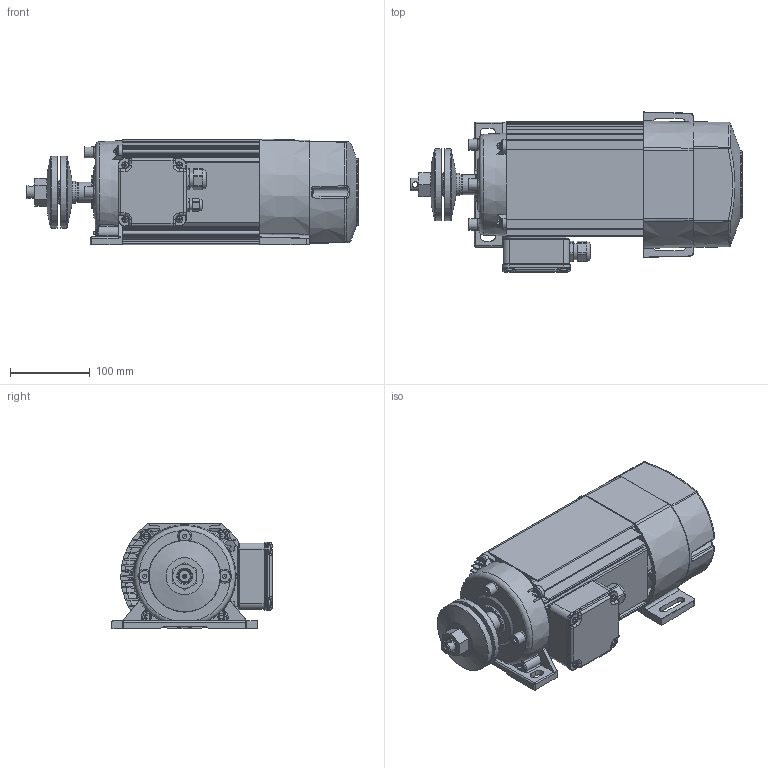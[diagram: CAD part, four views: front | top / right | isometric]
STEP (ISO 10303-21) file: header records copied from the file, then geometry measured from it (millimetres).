
FILE_DESCRIPTION((''),'2;1');
FILE_NAME('K:\EMG_Inv_Konstruktion\Flachbaumotoren\FB_80\DKF\T9155.stp','2013-08-09T07:36:10',('goldhahn'),(''),'Autodesk Inventor 2010','Autodesk Inventor 2010','');
FILE_SCHEMA(('AUTOMOTIVE_DESIGN { 1 0 10303 214 1 1 1 1 }'));
Length unit declared in the file: millimetre
Products named in the file (25): NELMO T9155; 0491000540140; DIN 625 SKF- beidseitig abgedeckt SKF 6005-2Z; 0491950120110; 0495000120110; 0495000120170; 0482558070140; 0000495010132; 0495000110110; 0495000110170; 0000510012901; 0000510012801; 0495020100510; 0004002154001; 0495020100610; 0004002154002; 0005213372101; 0580470212051; 0000580012050; 0560010211100; 0007351730045; 0007351730025; 0490010190300; ISO 7049 - C-Z ST 4,2 x 16 - C - Z; ISO 7049 - C-Z ST 3,5 x 16 - C - Z
Assembly tree (30 placements, depth 4):
  NELMO T9155
    0491000540140
    DIN 625 SKF- beidseitig abgedeckt SKF 6005-2Z
    0491950120110
      0495000120110
        0495000120170
    0482558070140
      0000495010132
    0495000110110
      0495000110170
    0000510012901  x2
    0000510012801  x2
    0495020100510
      0004002154001
    0495020100610
      0004002154002
    0005213372101
    0580470212051
      0000580012050
    0560010211100
    0007351730045
    0007351730025
    0490010190300
    ISO 7049 - C-Z ST 4,2 x 16 - C - Z  x4
    ISO 7049 - C-Z ST 3,5 x 16 - C - Z  x2
Bounding box: 415.5 x 200.35 x 132.5 mm (x, y, z)
Volume: 1345365.7 mm3; surface area: 717318.1 mm2
Topology: 23 solids, 23 shells, 2700 faces, 6979 edges, 4264 vertices
Faces by surface type: bspline 966, plane 800, cylinder 558, cone 249, torus 98, sphere 29
Full cylindrical faces by diameter (mm): 3.2 x2, 3.5 x2, 4 x1, 4.2 x4, 5 x4, 5.5 x4, 7 x1, 9 x5, 12 x2, 16 x1, 16.8 x1, 19 x1, 19.4 x1, 20 x5, 24.4 x2, 24.9 x1, 25 x2, 25.1 x2, 25.3 x1, 26.8 x1, 27 x3, 27.1 x1, 27.2 x1, 28 x1, 29.9 x1, 30 x1, 32.04 x2, 35 x1, 39.96 x2, 47 x3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
Entity records: 97407 total; most frequent: CARTESIAN_POINT 41043, ORIENTED_EDGE 12270, DIRECTION 10298, EDGE_CURVE 6135, AXIS2_PLACEMENT_3D 3963, VERTEX_POINT 3866, EDGE_LOOP 3005, FACE_OUTER_BOUND 2522
